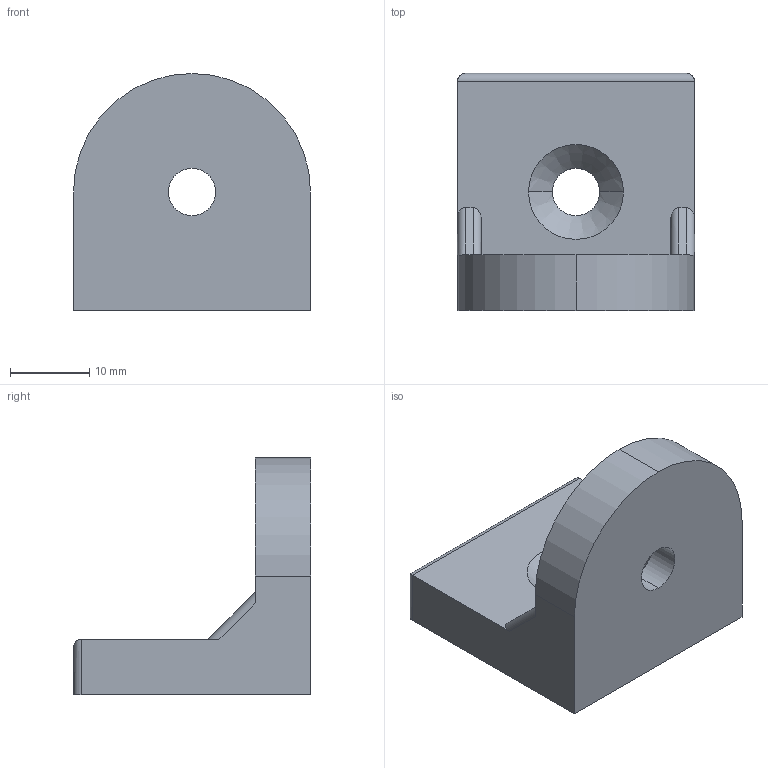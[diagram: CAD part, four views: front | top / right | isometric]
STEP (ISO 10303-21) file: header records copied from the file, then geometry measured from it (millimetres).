
FILE_DESCRIPTION (( 'STEP AP203' ), '1' );
FILE_NAME ('2046.STEP', '2016-04-07T08:46:33', ( '' ), ( '' ), 'SwSTEP 2.0', 'SolidWorks 2014', '' );
FILE_SCHEMA (( 'CONFIG_CONTROL_DESIGN' ));
Length unit declared in the file: millimetre
Products named in the file (1): 2046
Bounding box: 30 x 30 x 30 mm (x, y, z)
Volume: 9923.8 mm3; surface area: 4185.3 mm2
Topology: 1 solids, 1 shells, 28 faces, 72 edges, 46 vertices
Faces by surface type: cylinder 13, plane 11, cone 4
Entity records: 931 total; most frequent: CARTESIAN_POINT 177, ORIENTED_EDGE 144, DIRECTION 138, EDGE_CURVE 72, AXIS2_PLACEMENT_3D 47, VERTEX_POINT 46, VECTOR 44, LINE 44
